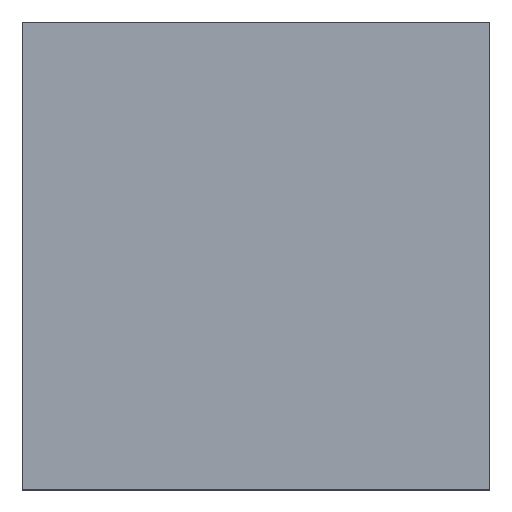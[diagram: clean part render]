
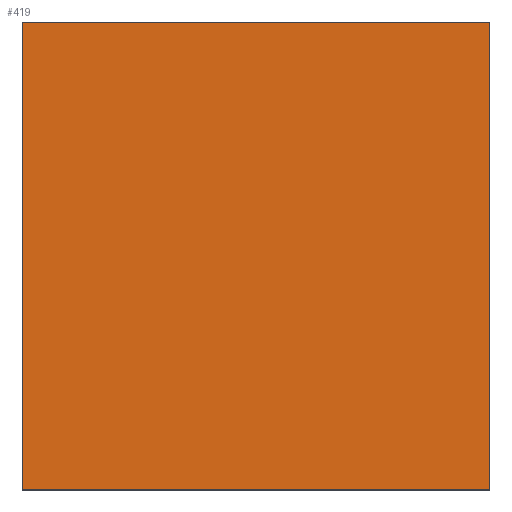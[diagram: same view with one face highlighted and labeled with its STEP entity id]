
A CAD part, top view. The second image highlights one B-rep face of the part: STEP entity #419.
In plain terms, the highlighted planar face has unit normal (0, 0, 1).
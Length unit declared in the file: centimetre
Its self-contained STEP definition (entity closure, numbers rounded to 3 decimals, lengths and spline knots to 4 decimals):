
#6 = ORIENTED_EDGE ( 'NONE', *, *, #244, .T. ) ;
#15 = EDGE_CURVE ( 'NONE', #169, #37, #133, .T. ) ;
#17 = VECTOR ( 'NONE', #205, 100. ) ;
#37 = VERTEX_POINT ( 'NONE', #93 ) ;
#54 = VECTOR ( 'NONE', #311, 100. ) ;
#69 = PLANE ( 'NONE',  #87 ) ;
#83 = CARTESIAN_POINT ( 'NONE',  ( 1000., 1000., 1000. ) ) ;
#87 = AXIS2_PLACEMENT_3D ( 'NONE', #394, #106, #297 ) ;
#93 = CARTESIAN_POINT ( 'NONE',  ( 0., 0., 1000. ) ) ;
#106 = DIRECTION ( 'NONE',  ( 0., 0., 1. ) ) ;
#108 = VECTOR ( 'NONE', #264, 100. ) ;
#111 = CARTESIAN_POINT ( 'NONE',  ( 0., 0., 1000. ) ) ;
#125 = VERTEX_POINT ( 'NONE', #83 ) ;
#133 = LINE ( 'NONE', #203, #17 ) ;
#157 = LINE ( 'NONE', #234, #314 ) ;
#169 = VERTEX_POINT ( 'NONE', #423 ) ;
#172 = ORIENTED_EDGE ( 'NONE', *, *, #15, .T. ) ;
#175 = EDGE_CURVE ( 'NONE', #403, #125, #347, .T. ) ;
#176 = CARTESIAN_POINT ( 'NONE',  ( 1000., 1000., 1000. ) ) ;
#193 = FACE_OUTER_BOUND ( 'NONE', #299, .T. ) ;
#203 = CARTESIAN_POINT ( 'NONE',  ( 0., 1000., 1000. ) ) ;
#205 = DIRECTION ( 'NONE',  ( 0., -1., 0. ) ) ;
#221 = LINE ( 'NONE', #111, #108 ) ;
#234 = CARTESIAN_POINT ( 'NONE',  ( 0., 1000., 1000. ) ) ;
#244 = EDGE_CURVE ( 'NONE', #125, #169, #157, .T. ) ;
#264 = DIRECTION ( 'NONE',  ( 1., 0., 0. ) ) ;
#297 = DIRECTION ( 'NONE',  ( 1., 0., 0. ) ) ;
#299 = EDGE_LOOP ( 'NONE', ( #172, #371, #365, #6 ) ) ;
#311 = DIRECTION ( 'NONE',  ( 0., 1., 0. ) ) ;
#314 = VECTOR ( 'NONE', #404, 100. ) ;
#347 = LINE ( 'NONE', #176, #54 ) ;
#365 = ORIENTED_EDGE ( 'NONE', *, *, #175, .T. ) ;
#371 = ORIENTED_EDGE ( 'NONE', *, *, #372, .T. ) ;
#372 = EDGE_CURVE ( 'NONE', #37, #403, #221, .T. ) ;
#394 = CARTESIAN_POINT ( 'NONE',  ( 0., 0., 1000. ) ) ;
#403 = VERTEX_POINT ( 'NONE', #466 ) ;
#404 = DIRECTION ( 'NONE',  ( -1., 0., 0. ) ) ;
#419 = ADVANCED_FACE ( 'NONE', ( #193 ), #69, .T. ) ;
#423 = CARTESIAN_POINT ( 'NONE',  ( 0., 1000., 1000. ) ) ;
#466 = CARTESIAN_POINT ( 'NONE',  ( 1000., 0., 1000. ) ) ;
